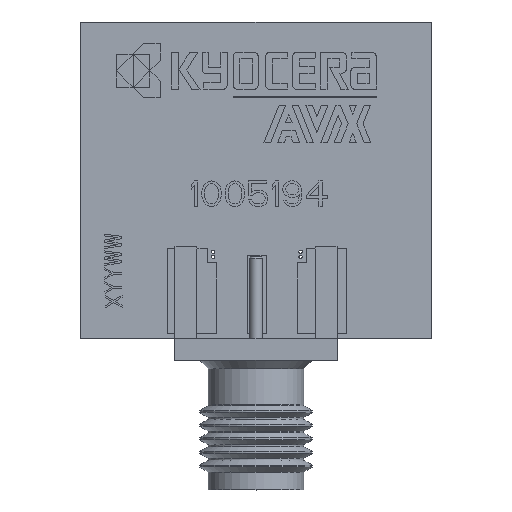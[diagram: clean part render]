
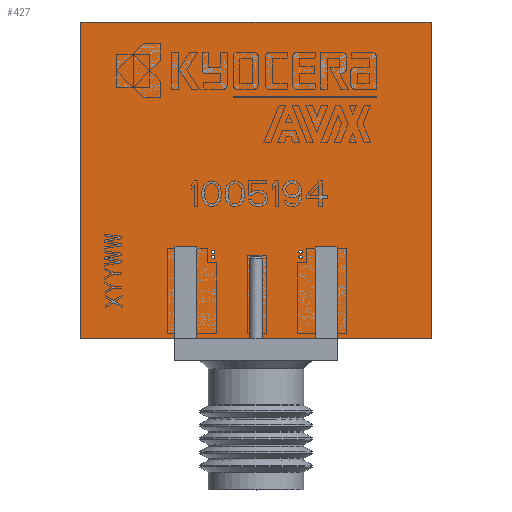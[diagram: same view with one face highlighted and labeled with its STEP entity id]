
A CAD part, top view. The second image highlights one B-rep face of the part: STEP entity #427.
In plain terms, the highlighted planar face has unit normal (0, 0, 1).
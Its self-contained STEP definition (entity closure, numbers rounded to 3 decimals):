
#117=DIRECTION('',(0.,1.,0.));
#118=VECTOR('',#117,18.6);
#119=CARTESIAN_POINT('',(-10.3,-9.3,0.));
#120=LINE('',#119,#118);
#124=DIRECTION('',(1.,0.,0.));
#125=VECTOR('',#124,20.6);
#126=CARTESIAN_POINT('',(-10.3,9.3,0.));
#127=LINE('',#126,#125);
#131=DIRECTION('',(0.,-1.,0.));
#132=VECTOR('',#131,18.6);
#133=CARTESIAN_POINT('',(10.3,9.3,0.));
#134=LINE('',#133,#132);
#138=DIRECTION('',(-1.,0.,0.));
#139=VECTOR('',#138,20.6);
#140=CARTESIAN_POINT('',(10.3,-9.3,0.));
#141=LINE('',#140,#139);
#145=CARTESIAN_POINT('',(-2.52,-4.2,0.));
#146=DIRECTION('',(0.,0.,1.));
#147=DIRECTION('',(1.,0.,0.));
#148=AXIS2_PLACEMENT_3D('',#145,#146,#147);
#153=CARTESIAN_POINT('',(-2.52,-4.2,0.));
#154=DIRECTION('',(0.,0.,1.));
#155=DIRECTION('',(-1.,0.,0.));
#156=AXIS2_PLACEMENT_3D('',#153,#154,#155);
#161=CARTESIAN_POINT('',(-2.52,-4.5,0.));
#162=DIRECTION('',(0.,0.,1.));
#163=DIRECTION('',(1.,0.,0.));
#164=AXIS2_PLACEMENT_3D('',#161,#162,#163);
#169=CARTESIAN_POINT('',(-2.52,-4.5,0.));
#170=DIRECTION('',(0.,0.,1.));
#171=DIRECTION('',(-1.,0.,0.));
#172=AXIS2_PLACEMENT_3D('',#169,#170,#171);
#177=CARTESIAN_POINT('',(2.62,-4.2,0.));
#178=DIRECTION('',(0.,0.,1.));
#179=DIRECTION('',(1.,0.,0.));
#180=AXIS2_PLACEMENT_3D('',#177,#178,#179);
#185=CARTESIAN_POINT('',(2.62,-4.2,0.));
#186=DIRECTION('',(0.,0.,1.));
#187=DIRECTION('',(-1.,0.,0.));
#188=AXIS2_PLACEMENT_3D('',#185,#186,#187);
#193=CARTESIAN_POINT('',(2.62,-4.5,0.));
#194=DIRECTION('',(0.,0.,1.));
#195=DIRECTION('',(1.,0.,0.));
#196=AXIS2_PLACEMENT_3D('',#193,#194,#195);
#201=CARTESIAN_POINT('',(2.62,-4.5,0.));
#202=DIRECTION('',(0.,0.,1.));
#203=DIRECTION('',(-1.,0.,0.));
#204=AXIS2_PLACEMENT_3D('',#201,#202,#203);
#286=CARTESIAN_POINT('',(-10.3,-9.3,0.));
#287=CARTESIAN_POINT('',(-10.3,9.3,0.));
#288=VERTEX_POINT('',#286);
#289=VERTEX_POINT('',#287);
#290=CARTESIAN_POINT('',(10.3,-9.3,0.));
#291=VERTEX_POINT('',#290);
#292=CARTESIAN_POINT('',(10.3,9.3,0.));
#293=VERTEX_POINT('',#292);
#318=CARTESIAN_POINT('',(-2.42,-4.2,0.));
#319=VERTEX_POINT('',#318);
#320=CARTESIAN_POINT('',(-2.62,-4.2,0.));
#321=VERTEX_POINT('',#320);
#322=CARTESIAN_POINT('',(-2.42,-4.5,0.));
#323=VERTEX_POINT('',#322);
#324=CARTESIAN_POINT('',(-2.62,-4.5,0.));
#325=VERTEX_POINT('',#324);
#326=CARTESIAN_POINT('',(2.72,-4.2,0.));
#327=VERTEX_POINT('',#326);
#328=CARTESIAN_POINT('',(2.52,-4.2,0.));
#329=VERTEX_POINT('',#328);
#330=CARTESIAN_POINT('',(2.72,-4.5,0.));
#331=VERTEX_POINT('',#330);
#332=CARTESIAN_POINT('',(2.52,-4.5,0.));
#333=VERTEX_POINT('',#332);
#389=CARTESIAN_POINT('',(0.,0.,0.));
#390=DIRECTION('',(0.,0.,1.));
#391=DIRECTION('',(1.,0.,0.));
#392=AXIS2_PLACEMENT_3D('',#389,#390,#391);
#393=PLANE('',#392);
#394=ORIENTED_EDGE('',*,*,#379,.T.);
#396=ORIENTED_EDGE('',*,*,#395,.T.);
#398=ORIENTED_EDGE('',*,*,#397,.T.);
#400=ORIENTED_EDGE('',*,*,#399,.T.);
#401=EDGE_LOOP('',(#394,#396,#398,#400));
#402=FACE_OUTER_BOUND('',#401,.F.);
#404=ORIENTED_EDGE('',*,*,#403,.T.);
#406=ORIENTED_EDGE('',*,*,#405,.T.);
#407=EDGE_LOOP('',(#404,#406));
#408=FACE_BOUND('',#407,.F.);
#410=ORIENTED_EDGE('',*,*,#409,.T.);
#412=ORIENTED_EDGE('',*,*,#411,.T.);
#413=EDGE_LOOP('',(#410,#412));
#414=FACE_BOUND('',#413,.F.);
#416=ORIENTED_EDGE('',*,*,#415,.T.);
#418=ORIENTED_EDGE('',*,*,#417,.T.);
#419=EDGE_LOOP('',(#416,#418));
#420=FACE_BOUND('',#419,.F.);
#422=ORIENTED_EDGE('',*,*,#421,.T.);
#424=ORIENTED_EDGE('',*,*,#423,.T.);
#425=EDGE_LOOP('',(#422,#424));
#426=FACE_BOUND('',#425,.F.);
#149=CIRCLE('',#148,0.1);
#157=CIRCLE('',#156,0.1);
#165=CIRCLE('',#164,0.1);
#173=CIRCLE('',#172,0.1);
#181=CIRCLE('',#180,0.1);
#189=CIRCLE('',#188,0.1);
#197=CIRCLE('',#196,0.1);
#205=CIRCLE('',#204,0.1);
#379=EDGE_CURVE('',#288,#289,#120,.T.);
#395=EDGE_CURVE('',#289,#293,#127,.T.);
#397=EDGE_CURVE('',#293,#291,#134,.T.);
#399=EDGE_CURVE('',#291,#288,#141,.T.);
#403=EDGE_CURVE('',#319,#321,#149,.T.);
#405=EDGE_CURVE('',#321,#319,#157,.T.);
#409=EDGE_CURVE('',#323,#325,#165,.T.);
#411=EDGE_CURVE('',#325,#323,#173,.T.);
#415=EDGE_CURVE('',#327,#329,#181,.T.);
#417=EDGE_CURVE('',#329,#327,#189,.T.);
#421=EDGE_CURVE('',#331,#333,#197,.T.);
#423=EDGE_CURVE('',#333,#331,#205,.T.);
#427=ADVANCED_FACE('',(#402,#408,#414,#420,#426),#393,.T.);
